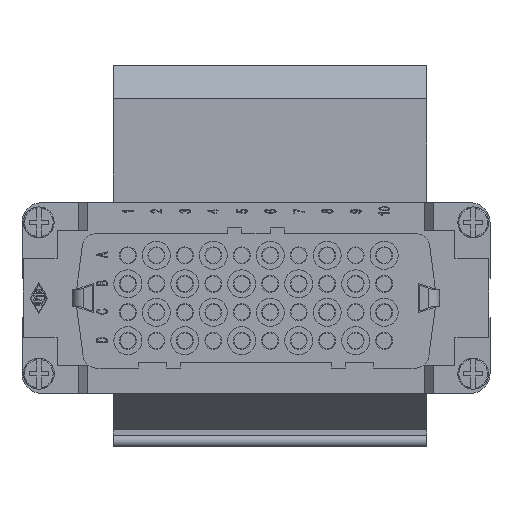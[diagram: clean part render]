
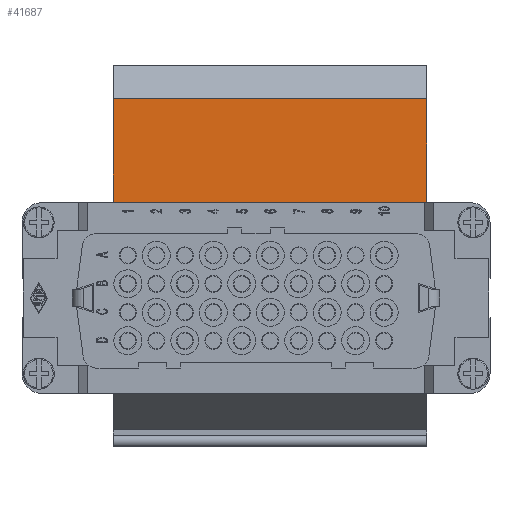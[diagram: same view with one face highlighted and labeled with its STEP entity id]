
A CAD part, front view. The second image highlights one B-rep face of the part: STEP entity #41687.
In plain terms, the highlighted planar face has unit normal (0, -1, 0).
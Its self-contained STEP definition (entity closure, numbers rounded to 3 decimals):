
#2141 = VERTEX_POINT ( 'NONE', #56831 ) ;
#2748 = PLANE ( 'NONE',  #24067 ) ;
#4051 = VECTOR ( 'NONE', #37085, 1000. ) ;
#8220 = CARTESIAN_POINT ( 'NONE',  ( -25.5, 44.5, -26.5 ) ) ;
#8731 = DIRECTION ( 'NONE',  ( 1., 0., 0. ) ) ;
#10154 = EDGE_CURVE ( 'NONE', #56616, #57168, #20335, .T. ) ;
#11162 = LINE ( 'NONE', #64785, #25658 ) ;
#12635 = CARTESIAN_POINT ( 'NONE',  ( -25.5, 44.5, 35.572 ) ) ;
#13731 = DIRECTION ( 'NONE',  ( 0., 0., -1. ) ) ;
#14974 = VERTEX_POINT ( 'NONE', #12635 ) ;
#16792 = VECTOR ( 'NONE', #22758, 1000. ) ;
#17048 = VERTEX_POINT ( 'NONE', #49528 ) ;
#17357 = EDGE_CURVE ( 'NONE', #17048, #25010, #67259, .T. ) ;
#18525 = LINE ( 'NONE', #68391, #4051 ) ;
#19445 = EDGE_CURVE ( 'NONE', #14974, #57168, #18525, .T. ) ;
#20335 = LINE ( 'NONE', #47795, #50896 ) ;
#21109 = EDGE_LOOP ( 'NONE', ( #26467, #33961, #48255, #58306, #21593, #32697 ) ) ;
#21593 = ORIENTED_EDGE ( 'NONE', *, *, #19445, .F. ) ;
#22758 = DIRECTION ( 'NONE',  ( 0., 0., 1. ) ) ;
#24067 = AXIS2_PLACEMENT_3D ( 'NONE', #8220, #46220, #13731 ) ;
#25010 = VERTEX_POINT ( 'NONE', #43025 ) ;
#25658 = VECTOR ( 'NONE', #32281, 1000. ) ;
#25930 = CARTESIAN_POINT ( 'NONE',  ( 30.5, 44.5, 14. ) ) ;
#26467 = ORIENTED_EDGE ( 'NONE', *, *, #17357, .T. ) ;
#28260 = CARTESIAN_POINT ( 'NONE',  ( -25.5, 44.5, 0. ) ) ;
#30287 = EDGE_CURVE ( 'NONE', #2141, #56616, #11162, .T. ) ;
#32281 = DIRECTION ( 'NONE',  ( 1., 0., 0. ) ) ;
#32697 = ORIENTED_EDGE ( 'NONE', *, *, #47548, .F. ) ;
#33592 = FACE_OUTER_BOUND ( 'NONE', #21109, .T. ) ;
#33961 = ORIENTED_EDGE ( 'NONE', *, *, #38744, .F. ) ;
#37085 = DIRECTION ( 'NONE',  ( 1., 0., 0. ) ) ;
#38744 = EDGE_CURVE ( 'NONE', #2141, #25010, #67095, .T. ) ;
#40742 = DIRECTION ( 'NONE',  ( 0., 0., 1. ) ) ;
#41687 = ADVANCED_FACE ( 'NONE', ( #33592 ), #2748, .T. ) ;
#43025 = CARTESIAN_POINT ( 'NONE',  ( 25.5, 44.5, 15.5 ) ) ;
#46220 = DIRECTION ( 'NONE',  ( 0., -1., 0. ) ) ;
#47548 = EDGE_CURVE ( 'NONE', #17048, #14974, #61828, .T. ) ;
#47795 = CARTESIAN_POINT ( 'NONE',  ( 30.5, 44.5, -26.5 ) ) ;
#48255 = ORIENTED_EDGE ( 'NONE', *, *, #30287, .T. ) ;
#49528 = CARTESIAN_POINT ( 'NONE',  ( -25.5, 44.5, 15.5 ) ) ;
#50896 = VECTOR ( 'NONE', #40742, 1000. ) ;
#52795 = VECTOR ( 'NONE', #8731, 1000. ) ;
#56616 = VERTEX_POINT ( 'NONE', #25930 ) ;
#56831 = CARTESIAN_POINT ( 'NONE',  ( 25.5, 44.5, 14. ) ) ;
#56864 = CARTESIAN_POINT ( 'NONE',  ( 30.5, 44.5, 35.572 ) ) ;
#57168 = VERTEX_POINT ( 'NONE', #56864 ) ;
#57612 = CARTESIAN_POINT ( 'NONE',  ( -25.5, 44.5, 15.5 ) ) ;
#58306 = ORIENTED_EDGE ( 'NONE', *, *, #10154, .T. ) ;
#61828 = LINE ( 'NONE', #28260, #16792 ) ;
#63188 = DIRECTION ( 'NONE',  ( 0., 0., 1. ) ) ;
#64785 = CARTESIAN_POINT ( 'NONE',  ( -25.5, 44.5, 14. ) ) ;
#65382 = VECTOR ( 'NONE', #63188, 1000. ) ;
#67095 = LINE ( 'NONE', #68471, #65382 ) ;
#67259 = LINE ( 'NONE', #57612, #52795 ) ;
#68391 = CARTESIAN_POINT ( 'NONE',  ( -25.5, 44.5, 35.572 ) ) ;
#68471 = CARTESIAN_POINT ( 'NONE',  ( 25.5, 44.5, 0. ) ) ;
